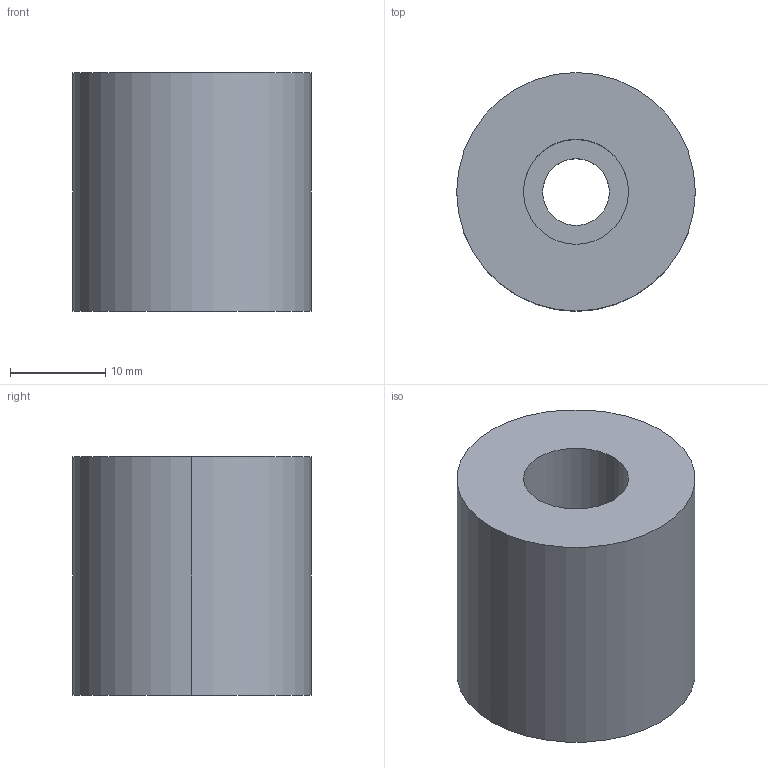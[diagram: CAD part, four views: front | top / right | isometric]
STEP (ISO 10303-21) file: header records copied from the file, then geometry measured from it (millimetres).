
FILE_DESCRIPTION(/* description */ (''),/* implementation_level */ '2;1');
FILE_NAME(/* name */ '3d_azn25-25_03260_r00.stp',/* time_stamp */ '2011-01-10T14:17:33+09:00',/* author */ ('MISUMI'),/* organization */ (''),/* preprocessor_version */ 'ST-DEVELOPER v11',/* originating_system */ 'UGS - NX 5.0',/* authorisation */ '');
FILE_SCHEMA (('CONFIG_CONTROL_DESIGN'));
Length unit declared in the file: millimetre
Products named in the file (1): 3d_azn25-25_03260_r00
Bounding box: 25 x 25 x 25 mm (x, y, z)
Volume: 10461.5 mm3; surface area: 3606.5 mm2
Topology: 1 solids, 1 shells, 9 faces, 18 edges, 12 vertices
Faces by surface type: cylinder 6, plane 3
Entity records: 334 total; most frequent: DIRECTION 50, CARTESIAN_POINT 40, ORIENTED_EDGE 36, AXIS2_PLACEMENT_3D 22, EDGE_CURVE 18, EDGE_LOOP 12, VERTEX_POINT 12, CIRCLE 12
